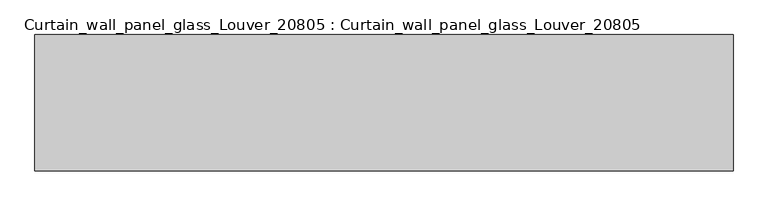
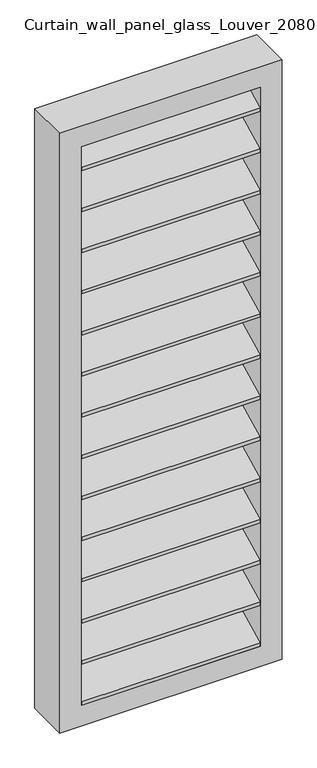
"""IFC4 building model written with IfcOpenShell, lengths in millimetres: plate geometry, Curtain_wall_panel_glass_Louver_20805 : Curtain_wall_panel_glass_Louver_20805."""

from ifc_helpers import new_model, si_unit, frame, origin, place, context, project, spatial, polyline, outline, extrude, source, transform, mapped, element, save


def curtain_wall_panel_glass_louver_20805_curtain_wall_panel_cb61cbd1(model_context):
    return source(origin(), model_context, "Body", "SweptSolid", [
        extrude(outline(polyline([(200.0, 199.3849981), (0.0, 100.0), (0.0, 116.7499328), (200.0, 216.1349309), (200.0, 199.3849981)])), frame((-412.7500001, 0.0, 0.0), z_axis=(1.0, 0.0, 0.0), x_axis=(0.0, 1.0, 0.0)), (0.0, 0.0, 1.0), 825.5000001),
        extrude(outline(polyline([(200.0, 2808.2500672), (0.0, 2708.8650691), (0.0, 2725.6150019), (200.0, 2825.0), (200.0, 2808.2500672)])), frame((-412.7500001, 0.0, 0.0), z_axis=(1.0, 0.0, 0.0), x_axis=(0.0, 1.0, 0.0)), (0.0, 0.0, 1.0), 825.5000001),
        extrude(outline(polyline([(200.0, 400.0669265), (0.0, 300.6819284), (0.0, 317.4318612), (200.0, 416.8168593), (200.0, 400.0669265)])), frame((-412.7500001, 0.0, 0.0), z_axis=(1.0, 0.0, 0.0), x_axis=(0.0, 1.0, 0.0)), (0.0, 0.0, 1.0), 825.5000001),
        extrude(outline(polyline([(200.0, 600.7488549), (0.0, 501.3638568), (0.0, 518.1137896), (200.0, 617.4987877), (200.0, 600.7488549)])), frame((-412.7500001, 0.0, 0.0), z_axis=(1.0, 0.0, 0.0), x_axis=(0.0, 1.0, 0.0)), (0.0, 0.0, 1.0), 825.5000001),
        extrude(outline(polyline([(200.0, 801.4307833), (0.0, 702.0457852), (0.0, 718.795718), (200.0, 818.1807161), (200.0, 801.4307833)])), frame((-412.7500001, 0.0, 0.0), z_axis=(1.0, 0.0, 0.0), x_axis=(0.0, 1.0, 0.0)), (0.0, 0.0, 1.0), 825.5000001),
        extrude(outline(polyline([(200.0, 1002.1127117), (0.0, 902.7277136), (0.0, 919.4776464), (200.0, 1018.8626445), (200.0, 1002.1127117)])), frame((-412.7500001, 0.0, 0.0), z_axis=(1.0, 0.0, 0.0), x_axis=(0.0, 1.0, 0.0)), (0.0, 0.0, 1.0), 825.5000001),
        extrude(outline(polyline([(200.0, 1202.79464), (0.0, 1103.4096419), (0.0, 1120.1595748), (200.0, 1219.5445729), (200.0, 1202.79464)])), frame((-412.7500001, 0.0, 0.0), z_axis=(1.0, 0.0, 0.0), x_axis=(0.0, 1.0, 0.0)), (0.0, 0.0, 1.0), 825.5000001),
        extrude(outline(polyline([(200.0, 1403.4765684), (0.0, 1304.0915703), (0.0, 1320.8415032), (200.0, 1420.2265013), (200.0, 1403.4765684)])), frame((-412.7500001, 0.0, 0.0), z_axis=(1.0, 0.0, 0.0), x_axis=(0.0, 1.0, 0.0)), (0.0, 0.0, 1.0), 825.5000001),
        extrude(outline(polyline([(200.0, 1604.1584968), (0.0, 1504.7734987), (0.0, 1521.5234316), (200.0, 1620.9084297), (200.0, 1604.1584968)])), frame((-412.7500001, 0.0, 0.0), z_axis=(1.0, 0.0, 0.0), x_axis=(0.0, 1.0, 0.0)), (0.0, 0.0, 1.0), 825.5000001),
        extrude(outline(polyline([(200.0, 1804.8404252), (0.0, 1705.4554271), (0.0, 1722.20536), (200.0, 1821.5903581), (200.0, 1804.8404252)])), frame((-412.7500001, 0.0, 0.0), z_axis=(1.0, 0.0, 0.0), x_axis=(0.0, 1.0, 0.0)), (0.0, 0.0, 1.0), 825.5000001),
        extrude(outline(polyline([(200.0, 2005.5223536), (0.0, 1906.1373555), (0.0, 1922.8872883), (200.0, 2022.2722864), (200.0, 2005.5223536)])), frame((-412.7500001, 0.0, 0.0), z_axis=(1.0, 0.0, 0.0), x_axis=(0.0, 1.0, 0.0)), (0.0, 0.0, 1.0), 825.5000001),
        extrude(outline(polyline([(200.0, 2206.204282), (0.0, 2106.8192839), (0.0, 2123.5692167), (200.0, 2222.9542148), (200.0, 2206.204282)])), frame((-412.7500001, 0.0, 0.0), z_axis=(1.0, 0.0, 0.0), x_axis=(0.0, 1.0, 0.0)), (0.0, 0.0, 1.0), 825.5000001),
        extrude(outline(polyline([(200.0, 2406.8862104), (0.0, 2307.5012123), (0.0, 2324.2511451), (200.0, 2423.6361432), (200.0, 2406.8862104)])), frame((-412.7500001, 0.0, 0.0), z_axis=(1.0, 0.0, 0.0), x_axis=(0.0, 1.0, 0.0)), (0.0, 0.0, 1.0), 825.5000001),
        extrude(outline(polyline([(200.0, 2607.5681388), (0.0, 2508.1831407), (0.0, 2524.9330735), (200.0, 2624.3180716), (200.0, 2607.5681388)])), frame((-412.7500001, 0.0, 0.0), z_axis=(1.0, 0.0, 0.0), x_axis=(0.0, 1.0, 0.0)), (0.0, 0.0, 1.0), 825.5000001),
        extrude(outline(polyline([(2925.0, -512.7500001), (0.0, -512.7500001), (0.0, 512.7500001), (2925.0, 512.7500001), (2925.0, -512.7500001)]), holes=[polyline([(2825.0, -412.7500001), (2825.0, 412.7500001), (100.0, 412.7500001), (100.0, -412.7500001), (2825.0, -412.7500001)])]), frame((0.0, 0.0, 0.0), z_axis=(0.0, 1.0, 0.0), x_axis=(0.0, 0.0, 1.0)), (0.0, 0.0, 1.0), 200.0),
    ])


if __name__ == "__main__":
    model = new_model("IFC4")
    model_context = context("Model", 3, world=origin())
    ifc_project = project(units=[si_unit("LENGTHUNIT", "METRE", prefix="MILLI")], contexts=[model_context])
    site = spatial("IfcSite", under=ifc_project)
    building = spatial("IfcBuilding", under=site)
    placement = place(None, origin())
    curtain_wall_panel_glass_louver_20805_curtain_wall_panel_shape = curtain_wall_panel_glass_louver_20805_curtain_wall_panel_cb61cbd1(model_context)
    element("IfcPlate", 1, ObjectType="Curtain_wall_panel_glass_Louver_20805 : Curtain_wall_panel_glass_Louver_20805", at=placement, inside=building, context=model_context, shape_type="MappedRepresentation", body=[
        mapped(curtain_wall_panel_glass_louver_20805_curtain_wall_panel_shape, transform((0.0, 0.0, 0.0), x_axis=(1.0, 0.0, 0.0), y_axis=(0.0, 1.0, 0.0), z_axis=(0.0, 0.0, 1.0))),
    ])
    save(model, "model.ifc")
